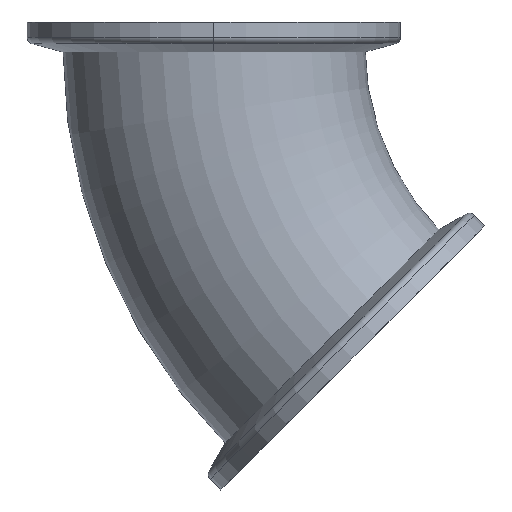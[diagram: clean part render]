
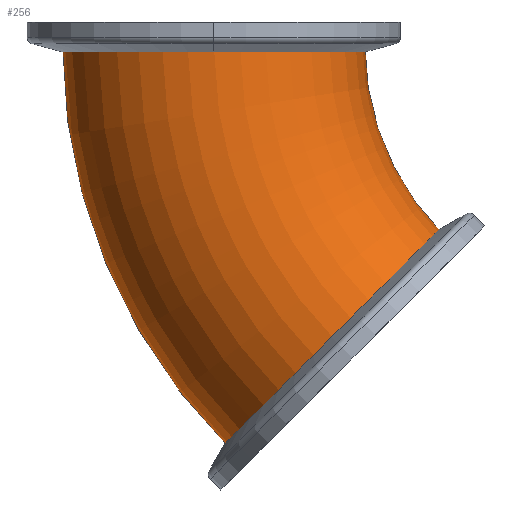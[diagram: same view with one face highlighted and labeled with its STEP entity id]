
A CAD part, left-side view. The second image highlights one B-rep face of the part: STEP entity #256.
In plain terms, the highlighted toroidal (fillet/blend) face has major radius 61.5 mm and minor radius 22.25 mm.
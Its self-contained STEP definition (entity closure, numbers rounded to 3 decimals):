
#71 = VERTEX_POINT ( 'NONE', #599 ) ;
#95 = DIRECTION ( 'NONE',  ( 0., 0., -1. ) ) ;
#118 = CIRCLE ( 'NONE', #185, 39.25 ) ;
#126 = VERTEX_POINT ( 'NONE', #857 ) ;
#166 = DIRECTION ( 'NONE',  ( 0., 0., -1. ) ) ;
#169 = AXIS2_PLACEMENT_3D ( 'NONE', #976, #386, #166 ) ;
#171 = CARTESIAN_POINT ( 'NONE',  ( 0., -61.5, -3.5 ) ) ;
#185 = AXIS2_PLACEMENT_3D ( 'NONE', #171, #569, #95 ) ;
#199 = EDGE_LOOP ( 'NONE', ( #444, #992, #597, #879 ) ) ;
#206 = DIRECTION ( 'NONE',  ( 1., 0., 0. ) ) ;
#238 = DIRECTION ( 'NONE',  ( -1., 0., 0. ) ) ;
#256 = ADVANCED_FACE ( 'NONE', ( #723 ), #302, .T. ) ;
#257 = DIRECTION ( 'NONE',  ( 0., 0., -1. ) ) ;
#276 = CARTESIAN_POINT ( 'NONE',  ( 0., -61.5, -3.5 ) ) ;
#284 = VERTEX_POINT ( 'NONE', #630 ) ;
#302 = TOROIDAL_SURFACE ( 'NONE', #607, 61.5, 22.25 ) ;
#346 = CIRCLE ( 'NONE', #452, 22.25 ) ;
#386 = DIRECTION ( 'NONE',  ( 1., 0., 0. ) ) ;
#392 = DIRECTION ( 'NONE',  ( 0., -0.707, -0.707 ) ) ;
#427 = EDGE_CURVE ( 'NONE', #71, #718, #881, .T. ) ;
#432 = CIRCLE ( 'NONE', #169, 83.75 ) ;
#444 = ORIENTED_EDGE ( 'NONE', *, *, #448, .F. ) ;
#448 = EDGE_CURVE ( 'NONE', #718, #284, #432, .T. ) ;
#452 = AXIS2_PLACEMENT_3D ( 'NONE', #510, #257, #907 ) ;
#510 = CARTESIAN_POINT ( 'NONE',  ( 0., 0., -3.5 ) ) ;
#540 = EDGE_CURVE ( 'NONE', #71, #126, #118, .T. ) ;
#569 = DIRECTION ( 'NONE',  ( 1., 0., 0. ) ) ;
#597 = ORIENTED_EDGE ( 'NONE', *, *, #540, .T. ) ;
#599 = CARTESIAN_POINT ( 'NONE',  ( 0., -33.746, -31.254 ) ) ;
#607 = AXIS2_PLACEMENT_3D ( 'NONE', #276, #206, #935 ) ;
#630 = CARTESIAN_POINT ( 'NONE',  ( 0., 22.25, -3.5 ) ) ;
#718 = VERTEX_POINT ( 'NONE', #994 ) ;
#723 = FACE_OUTER_BOUND ( 'NONE', #199, .T. ) ;
#857 = CARTESIAN_POINT ( 'NONE',  ( 0., -22.25, -3.5 ) ) ;
#877 = EDGE_CURVE ( 'NONE', #126, #284, #346, .T. ) ;
#879 = ORIENTED_EDGE ( 'NONE', *, *, #877, .T. ) ;
#881 = CIRCLE ( 'NONE', #932, 22.25 ) ;
#884 = CARTESIAN_POINT ( 'NONE',  ( 0., -18.013, -46.987 ) ) ;
#907 = DIRECTION ( 'NONE',  ( -1., 0., 0. ) ) ;
#932 = AXIS2_PLACEMENT_3D ( 'NONE', #884, #392, #238 ) ;
#935 = DIRECTION ( 'NONE',  ( 0., 0., -1. ) ) ;
#976 = CARTESIAN_POINT ( 'NONE',  ( 0., -61.5, -3.5 ) ) ;
#992 = ORIENTED_EDGE ( 'NONE', *, *, #427, .F. ) ;
#994 = CARTESIAN_POINT ( 'NONE',  ( 0., -2.28, -62.72 ) ) ;
